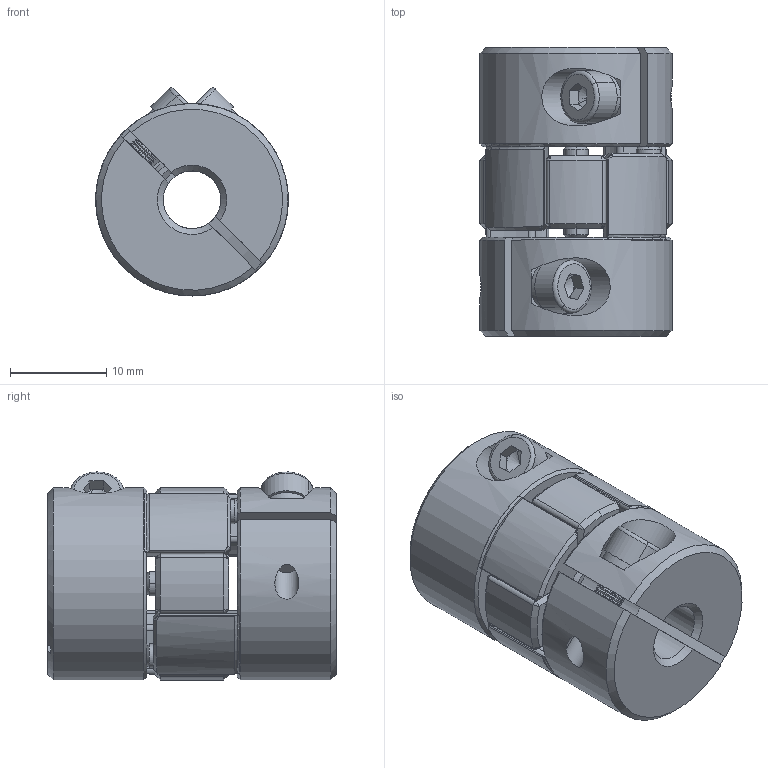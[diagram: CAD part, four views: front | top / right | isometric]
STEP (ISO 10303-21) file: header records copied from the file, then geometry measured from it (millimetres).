
FILE_DESCRIPTION (( 'STEP AP203' ), '1' );
FILE_NAME ('LF-B-D20L30-6-6.STEP', '2021-10-27T02:48:31', ( '' ), ( '' ), 'SwSTEP 2.0', 'SolidWorks 2018', '' );
FILE_SCHEMA (( 'CONFIG_CONTROL_DESIGN' ));
Length unit declared in the file: millimetre
Products named in the file (1): LF-B-D20L30-6-6
Bounding box: 20 x 30 x 21.62 mm (x, y, z)
Volume: 7737.7 mm3; surface area: 4889.6 mm2
Topology: 1 solids, 1 shells, 518 faces, 1253 edges, 691 vertices
Faces by surface type: cone 252, cylinder 192, plane 62, torus 12
Entity records: 15026 total; most frequent: CARTESIAN_POINT 2906, DIRECTION 2742, ORIENTED_EDGE 2426, EDGE_CURVE 1213, AXIS2_PLACEMENT_3D 1107, VERTEX_POINT 691, CIRCLE 588, EDGE_LOOP 546
